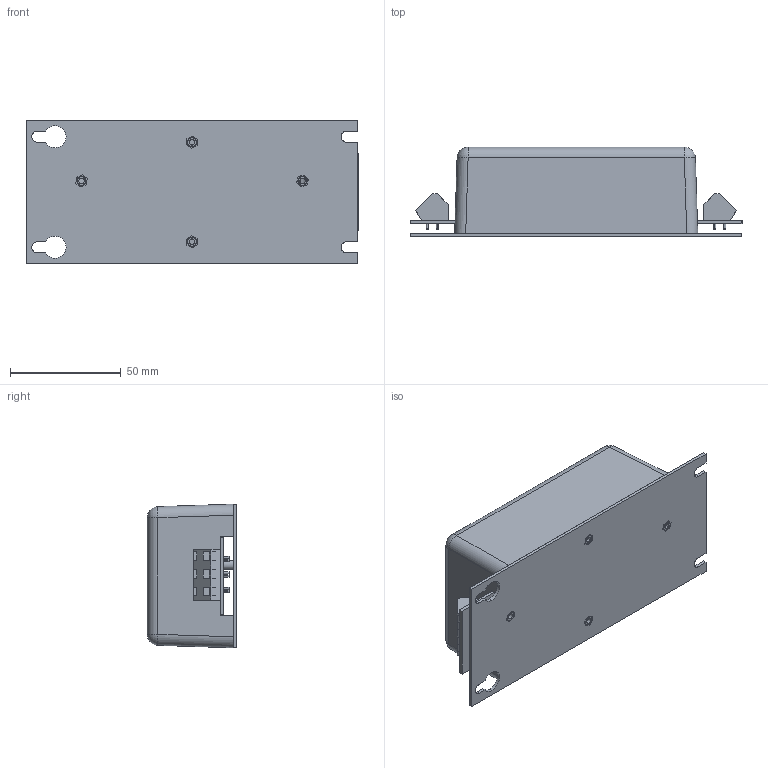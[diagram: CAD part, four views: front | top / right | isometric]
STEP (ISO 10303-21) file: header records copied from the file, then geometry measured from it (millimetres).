
FILE_DESCRIPTION (( 'STEP AP214' ), '1' );
FILE_NAME ('MDF06.STEP', '2015-01-22T09:33:16', ( '' ), ( '' ), 'SwSTEP 2.0', 'SolidWorks 2014', '' );
FILE_SCHEMA (( 'AUTOMOTIVE_DESIGN' ));
Length unit declared in the file: millimetre
Products named in the file (8): MNT04 ASS; PEM SO-M3-6 ZI--N_PEM SO-M3-6 ZI--N; MNT04; pcb19 ass; TER91; PCB19; box79; MDF06
Assembly tree (11 placements, depth 3):
  MDF06
    box79
    pcb19 ass
      PCB19
      TER91  x2
    MNT04 ASS
      MNT04
      PEM SO-M3-6 ZI--N_PEM SO-M3-6 ZI--N  x4
Bounding box: 150.2 x 40.5 x 65 mm (x, y, z)
Volume: 66820.1 mm3; surface area: 76791.9 mm2
Topology: 9 solids, 9 shells, 922 faces, 2391 edges, 1570 vertices
Faces by surface type: plane 573, cylinder 200, bspline 133, sphere 8, cone 8
Entity records: 33165 total; most frequent: CARTESIAN_POINT 13475, ORIENTED_EDGE 4118, DIRECTION 3419, EDGE_CURVE 2059, VECTOR 1475, LINE 1475, VERTEX_POINT 1360, AXIS2_PLACEMENT_3D 972
